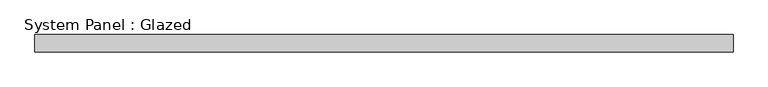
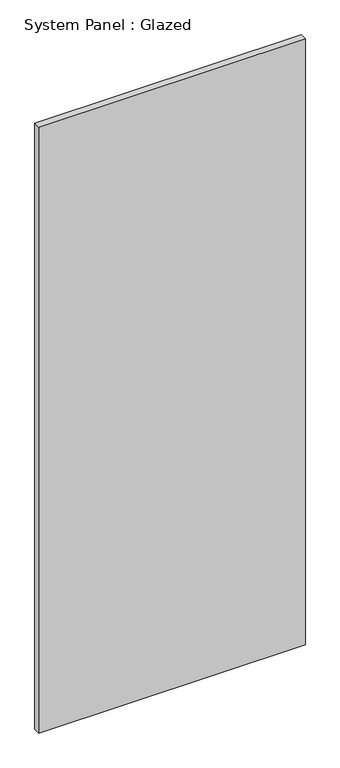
"""IFC4 building model written with IfcOpenShell, lengths in millimetres: plate geometry, System Panel : Glazed."""

from ifc_helpers import new_model, si_unit, frame, origin, place, context, project, spatial, polyline, outline, extrude, source, transform, mapped, element, save


def system_panel_glazed_5cd093d0(model_context):
    return source(origin(), model_context, "Body", "SweptSolid", [
        extrude(outline(polyline([(0.0, -508.7499919), (0.0, 508.7499919), (2442.6851712, 508.7499919), (2442.592246, -508.7499919), (0.0, -508.7499919)])), frame((0.0, -72.5, 0.0), z_axis=(0.0, 1.0, 0.0), x_axis=(0.0, 0.0, 1.0)), (0.0, 0.0, 1.0), 25.0),
    ])


if __name__ == "__main__":
    model = new_model("IFC4")
    model_context = context("Model", 3, world=origin())
    ifc_project = project(units=[si_unit("LENGTHUNIT", "METRE", prefix="MILLI")], contexts=[model_context])
    site = spatial("IfcSite", under=ifc_project)
    building = spatial("IfcBuilding", under=site)
    placement = place(None, origin())
    system_panel_glazed_shape = system_panel_glazed_5cd093d0(model_context)
    element("IfcPlate", 1, ObjectType="System Panel : Glazed", at=placement, inside=building, context=model_context, shape_type="MappedRepresentation", body=[
        mapped(system_panel_glazed_shape, transform((0.0, 0.0, 0.0), x_axis=(1.0, 0.0, 0.0), y_axis=(0.0, 1.0, 0.0), z_axis=(0.0, 0.0, 1.0))),
    ])
    save(model, "model.ifc")
